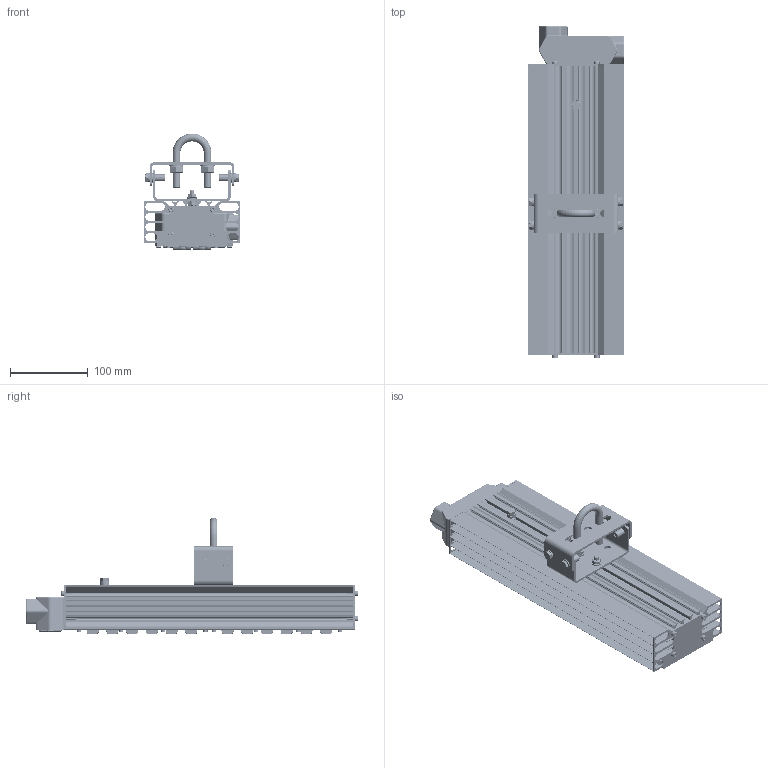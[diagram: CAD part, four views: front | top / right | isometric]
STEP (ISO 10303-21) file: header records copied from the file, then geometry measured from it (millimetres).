
FILE_DESCRIPTION((''),'2;1');
FILE_NAME('C:\Users\A.Yu.Kozyrkov\Desktop\Готовый\СГУ06-6600С_220AC_T_M1.stp','2020-07-09T14:10:11',('A.Yu.Kozyrkov'),(''),'Autodesk Inventor 2012','Autodesk Inventor 2012','');
FILE_SCHEMA(('AUTOMOTIVE_DESIGN { 1 0 10303 214 1 1 1 1 }'));
Length unit declared in the file: millimetre
Products named in the file (1): СГУ06-6600С_220AC_T_M1
Bounding box: 124.05 x 427.5 x 150.27 mm (x, y, z)
Surface area: 861371.6 mm2 (no closed solid volume)
Topology: 0 solids, 93 shells, 6366 faces, 16465 edges, 10623 vertices
Faces by surface type: plane 2598, cylinder 1380, bspline 855, cone 690, torus 583, revolution 194, sphere 66
Full cylindrical faces by diameter (mm): 0.6 x8, 1.6 x20, 2.5 x24, 2.729 x8, 3 x48, 3.2 x45, 3.242 x1, 3.621 x2, 3.85 x6, 3.9 x2, 4 x8, 4.255 x16, 4.3 x2, 4.5 x16, 4.6 x8, 4.917 x7, 5.026 x2, 5.459 x7, 5.5 x16, 5.9 x2, 6 x7, 6.4 x2, 6.5 x3, 7 x6, 7.2 x2, 7.3 x2, 7.5 x4, 8.376 x2, 8.5 x2, 8.7 x7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
Entity records: 256272 total; most frequent: CARTESIAN_POINT 104677, ORIENTED_EDGE 30708, DIRECTION 27537, EDGE_CURVE 15354, VERTEX_POINT 10304, AXIS2_PLACEMENT_3D 10244, EDGE_LOOP 7856, VECTOR 6855
